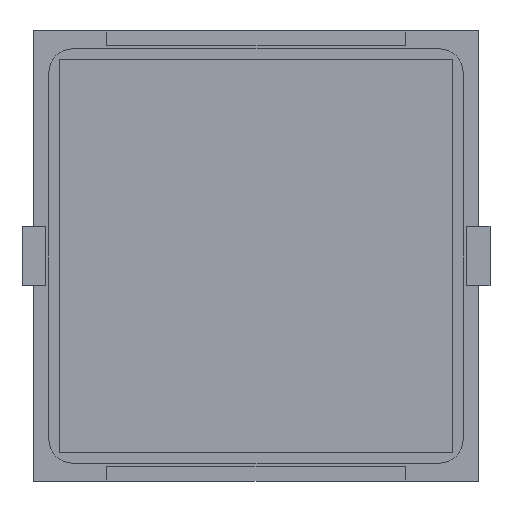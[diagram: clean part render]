
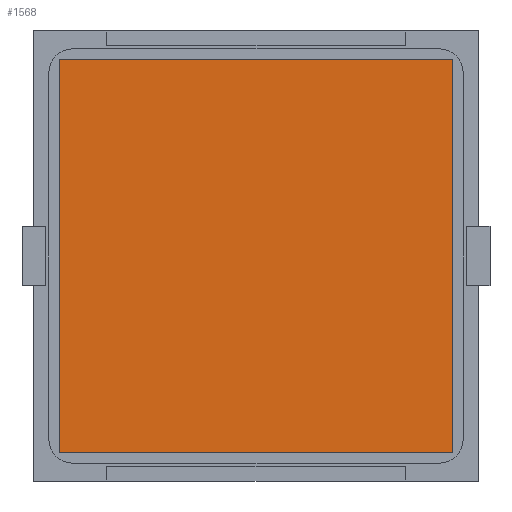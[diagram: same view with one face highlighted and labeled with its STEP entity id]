
A CAD part, front view. The second image highlights one B-rep face of the part: STEP entity #1568.
In plain terms, the highlighted planar face has unit normal (0, -1, 0).
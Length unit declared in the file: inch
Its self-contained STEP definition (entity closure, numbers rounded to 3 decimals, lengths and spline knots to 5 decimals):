
#101 = LINE ( 'NONE', #3772, #15617 ) ;
#285 = DIRECTION ( 'NONE',  ( 0., -1., 0. ) ) ;
#731 = CARTESIAN_POINT ( 'NONE',  ( 0.64961, -0.005, 0.64961 ) ) ;
#1190 = CARTESIAN_POINT ( 'NONE',  ( -0.64961, -0.005, -0.64961 ) ) ;
#1568 = ADVANCED_FACE ( 'NONE', ( #8918 ), #14928, .T. ) ;
#1589 = VECTOR ( 'NONE', #5528, 39.37008 ) ;
#2324 = EDGE_CURVE ( 'NONE', #16068, #4254, #4575, .T. ) ;
#2733 = DIRECTION ( 'NONE',  ( 0., 0., -1. ) ) ;
#3155 = EDGE_CURVE ( 'NONE', #4254, #15222, #11926, .T. ) ;
#3772 = CARTESIAN_POINT ( 'NONE',  ( 0.64961, -0.005, -0.64961 ) ) ;
#4254 = VERTEX_POINT ( 'NONE', #8275 ) ;
#4363 = VECTOR ( 'NONE', #2733, 39.37008 ) ;
#4575 = LINE ( 'NONE', #12010, #13344 ) ;
#4888 = EDGE_CURVE ( 'NONE', #15222, #8966, #16108, .T. ) ;
#4936 = CARTESIAN_POINT ( 'NONE',  ( -0.64961, -0.005, 0.64961 ) ) ;
#5052 = DIRECTION ( 'NONE',  ( 1., 0., 0. ) ) ;
#5230 = EDGE_CURVE ( 'NONE', #8966, #16068, #101, .T. ) ;
#5350 = ORIENTED_EDGE ( 'NONE', *, *, #5230, .T. ) ;
#5528 = DIRECTION ( 'NONE',  ( -1., 0., 0. ) ) ;
#5760 = CARTESIAN_POINT ( 'NONE',  ( -0.64961, -0.005, -0.64961 ) ) ;
#5813 = CARTESIAN_POINT ( 'NONE',  ( 0.64961, -0.005, -0.64961 ) ) ;
#5923 = DIRECTION ( 'NONE',  ( 0., 0., 1. ) ) ;
#7170 = AXIS2_PLACEMENT_3D ( 'NONE', #13708, #285, #13786 ) ;
#8275 = CARTESIAN_POINT ( 'NONE',  ( 0.64961, -0.005, 0.64961 ) ) ;
#8918 = FACE_OUTER_BOUND ( 'NONE', #12551, .T. ) ;
#8966 = VERTEX_POINT ( 'NONE', #5760 ) ;
#9226 = ORIENTED_EDGE ( 'NONE', *, *, #2324, .T. ) ;
#9714 = ORIENTED_EDGE ( 'NONE', *, *, #3155, .T. ) ;
#11926 = LINE ( 'NONE', #731, #1589 ) ;
#12010 = CARTESIAN_POINT ( 'NONE',  ( 0.64961, -0.005, -0.64961 ) ) ;
#12551 = EDGE_LOOP ( 'NONE', ( #9226, #9714, #14314, #5350 ) ) ;
#13344 = VECTOR ( 'NONE', #5923, 39.37008 ) ;
#13708 = CARTESIAN_POINT ( 'NONE',  ( 0.64961, -0.005, 0.64961 ) ) ;
#13786 = DIRECTION ( 'NONE',  ( 0., 0., 1. ) ) ;
#14314 = ORIENTED_EDGE ( 'NONE', *, *, #4888, .T. ) ;
#14928 = PLANE ( 'NONE',  #7170 ) ;
#15222 = VERTEX_POINT ( 'NONE', #4936 ) ;
#15617 = VECTOR ( 'NONE', #5052, 39.37008 ) ;
#16068 = VERTEX_POINT ( 'NONE', #5813 ) ;
#16108 = LINE ( 'NONE', #1190, #4363 ) ;
